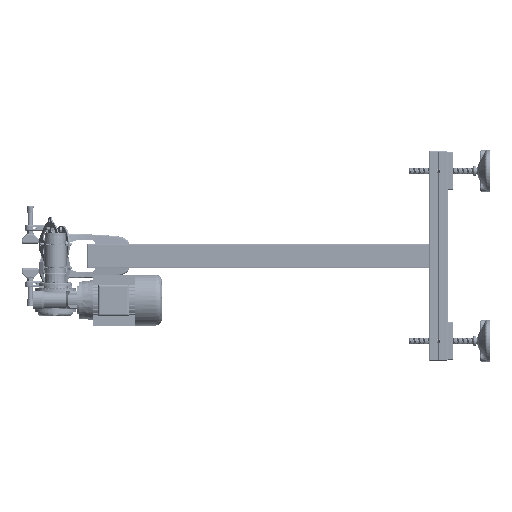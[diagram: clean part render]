
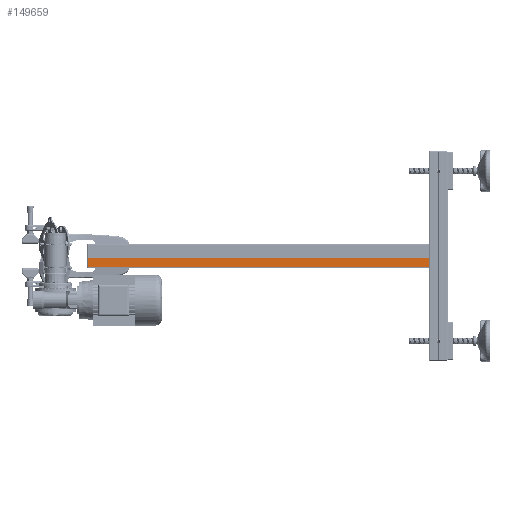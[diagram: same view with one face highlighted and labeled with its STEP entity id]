
A CAD part, left-side view. The second image highlights one B-rep face of the part: STEP entity #149659.
In plain terms, the highlighted planar face has unit normal (-1, 0, 0) as drawn and (0, 0, -1) by its records, which use the part's own axes.
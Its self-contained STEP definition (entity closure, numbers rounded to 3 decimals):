
#3506 = ORIENTED_EDGE ( 'NONE', *, *, #174132, .T. ) ;
#16317 = LINE ( 'NONE', #33549, #71864 ) ;
#19594 = VECTOR ( 'NONE', #191498, 1000. ) ;
#24877 = LINE ( 'NONE', #195769, #88229 ) ;
#32976 = EDGE_CURVE ( 'NONE', #153066, #160472, #24877, .T. ) ;
#33549 = CARTESIAN_POINT ( 'NONE',  ( 27.5, -433.5, -22.5 ) ) ;
#35733 = ORIENTED_EDGE ( 'NONE', *, *, #90489, .T. ) ;
#41087 = CARTESIAN_POINT ( 'NONE',  ( 27.5, -388.5, -22.5 ) ) ;
#50972 = VECTOR ( 'NONE', #150674, 1000. ) ;
#58120 = CARTESIAN_POINT ( 'NONE',  ( 4.15, -433.5, -22.5 ) ) ;
#60908 = DIRECTION ( 'NONE',  ( 1., 0., 0. ) ) ;
#71864 = VECTOR ( 'NONE', #79334, 1000. ) ;
#79334 = DIRECTION ( 'NONE',  ( 0., 1., 0. ) ) ;
#88229 = VECTOR ( 'NONE', #163270, 1000. ) ;
#89186 = EDGE_LOOP ( 'NONE', ( #35733, #174921, #113986, #3506 ) ) ;
#90489 = EDGE_CURVE ( 'NONE', #110495, #153066, #199483, .T. ) ;
#91384 = VERTEX_POINT ( 'NONE', #41087 ) ;
#96012 = CARTESIAN_POINT ( 'NONE',  ( 27.5, 433.5, -22.5 ) ) ;
#108076 = AXIS2_PLACEMENT_3D ( 'NONE', #183023, #200293, #60908 ) ;
#110495 = VERTEX_POINT ( 'NONE', #191635 ) ;
#113986 = ORIENTED_EDGE ( 'NONE', *, *, #173312, .F. ) ;
#121943 = FACE_OUTER_BOUND ( 'NONE', #89186, .T. ) ;
#137223 = PLANE ( 'NONE',  #108076 ) ;
#142679 = CARTESIAN_POINT ( 'NONE',  ( 4.15, -388.5, -22.5 ) ) ;
#144715 = LINE ( 'NONE', #142679, #19594 ) ;
#149659 = ADVANCED_FACE ( 'NONE', ( #121943 ), #137223, .F. ) ;
#150674 = DIRECTION ( 'NONE',  ( 0., 1., 0. ) ) ;
#153066 = VERTEX_POINT ( 'NONE', #199419 ) ;
#160472 = VERTEX_POINT ( 'NONE', #96012 ) ;
#163270 = DIRECTION ( 'NONE',  ( 1., 0., 0. ) ) ;
#173312 = EDGE_CURVE ( 'NONE', #91384, #160472, #16317, .T. ) ;
#174132 = EDGE_CURVE ( 'NONE', #91384, #110495, #144715, .T. ) ;
#174921 = ORIENTED_EDGE ( 'NONE', *, *, #32976, .T. ) ;
#183023 = CARTESIAN_POINT ( 'NONE',  ( 4.15, -433.5, -22.5 ) ) ;
#191498 = DIRECTION ( 'NONE',  ( -1., 0., 0. ) ) ;
#191635 = CARTESIAN_POINT ( 'NONE',  ( 4.15, -388.5, -22.5 ) ) ;
#195769 = CARTESIAN_POINT ( 'NONE',  ( 4.15, 433.5, -22.5 ) ) ;
#199419 = CARTESIAN_POINT ( 'NONE',  ( 4.15, 433.5, -22.5 ) ) ;
#199483 = LINE ( 'NONE', #58120, #50972 ) ;
#200293 = DIRECTION ( 'NONE',  ( 0., 0., 1. ) ) ;
